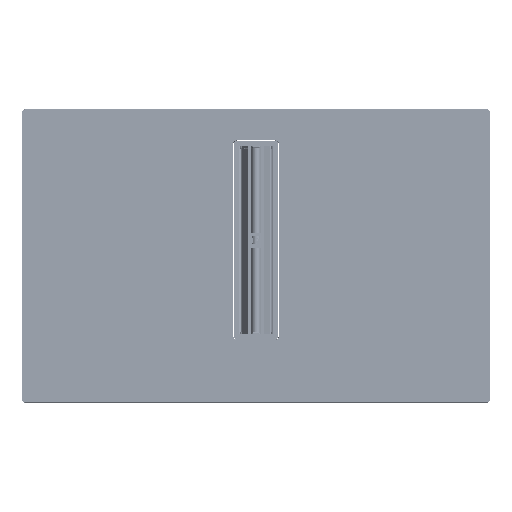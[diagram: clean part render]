
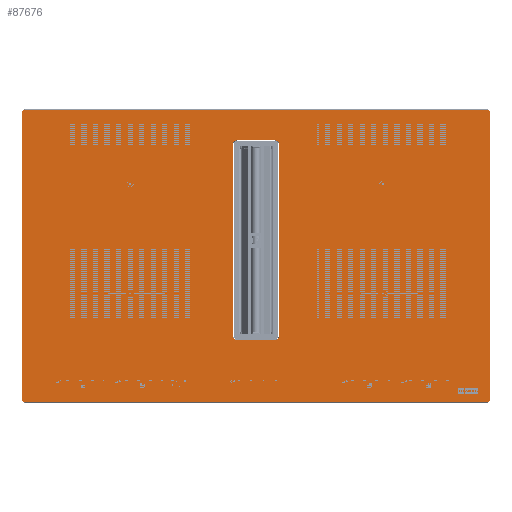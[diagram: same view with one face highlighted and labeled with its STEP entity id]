
A CAD part, top view. The second image highlights one B-rep face of the part: STEP entity #87676.
In plain terms, the highlighted planar face has unit normal (0, 0, 1) as drawn and (0, 1, 0) by its records, which use the part's own axes.
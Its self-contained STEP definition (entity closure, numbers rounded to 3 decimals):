
#921=FACE_BOUND('',#151431,.T.);
#1043=TRIMMED_CURVE($,#2244,(#1094700),(#1094701),.T.,.CARTESIAN.);
#1048=TRIMMED_CURVE($,#2249,(#1094717),(#1094718),.T.,.CARTESIAN.);
#1052=TRIMMED_CURVE($,#2253,(#1094731),(#1094732),.T.,.CARTESIAN.);
#1056=TRIMMED_CURVE($,#2257,(#1094745),(#1094746),.T.,.CARTESIAN.);
#1059=TRIMMED_CURVE($,#2260,(#1095112),(#1095113),.T.,.CARTESIAN.);
#1063=TRIMMED_CURVE($,#2264,(#1095124),(#1095125),.T.,.CARTESIAN.);
#1068=TRIMMED_CURVE($,#2269,(#1095139),(#1095140),.T.,.CARTESIAN.);
#1071=TRIMMED_CURVE($,#2272,(#1095148),(#1095149),.T.,.CARTESIAN.);
#2244=CIRCLE('',#698291,8.628);
#2249=CIRCLE('',#698296,8.628);
#2253=CIRCLE('',#698300,8.628);
#2257=CIRCLE('',#698304,8.628);
#2260=CIRCLE('',#698307,4.372);
#2264=CIRCLE('',#698311,4.372);
#2269=CIRCLE('',#698316,4.372);
#2272=CIRCLE('',#698319,4.372);
#87676=ADVANCED_FACE('',(#119553,#921),#667079,.T.);
#119553=FACE_OUTER_BOUND('',#151430,.T.);
#151430=EDGE_LOOP('',(#265629,#265630,#265631,#265632,#265633,#265634,#265635,
#265636));
#151431=EDGE_LOOP('',(#265637,#265638,#265639,#265640,#265641,#265642,#265643,
#265644));
#265629=ORIENTED_EDGE('',*,*,#395439,.T.);
#265630=ORIENTED_EDGE('',*,*,#395236,.T.);
#265631=ORIENTED_EDGE('',*,*,#395443,.T.);
#265632=ORIENTED_EDGE('',*,*,#395235,.T.);
#265633=ORIENTED_EDGE('',*,*,#395448,.T.);
#265634=ORIENTED_EDGE('',*,*,#395234,.T.);
#265635=ORIENTED_EDGE('',*,*,#395451,.T.);
#265636=ORIENTED_EDGE('',*,*,#395233,.T.);
#265637=ORIENTED_EDGE('',*,*,#395240,.T.);
#265638=ORIENTED_EDGE('',*,*,#395247,.T.);
#265639=ORIENTED_EDGE('',*,*,#395239,.T.);
#265640=ORIENTED_EDGE('',*,*,#395252,.T.);
#265641=ORIENTED_EDGE('',*,*,#395238,.T.);
#265642=ORIENTED_EDGE('',*,*,#395257,.T.);
#265643=ORIENTED_EDGE('',*,*,#395237,.T.);
#265644=ORIENTED_EDGE('',*,*,#395241,.T.);
#395233=EDGE_CURVE('',#633266,#633264,#514849,.T.);
#395234=EDGE_CURVE('',#633268,#633267,#514850,.T.);
#395235=EDGE_CURVE('',#633270,#633269,#514851,.T.);
#395236=EDGE_CURVE('',#633265,#633271,#514852,.T.);
#395237=EDGE_CURVE('',#633274,#633272,#514853,.T.);
#395238=EDGE_CURVE('',#633276,#633275,#514854,.T.);
#395239=EDGE_CURVE('',#633278,#633277,#514855,.T.);
#395240=EDGE_CURVE('',#633273,#633279,#514856,.T.);
#395241=EDGE_CURVE('',#633272,#633273,#1043,.T.);
#395247=EDGE_CURVE('',#633279,#633278,#1048,.T.);
#395252=EDGE_CURVE('',#633277,#633276,#1052,.T.);
#395257=EDGE_CURVE('',#633275,#633274,#1056,.T.);
#395439=EDGE_CURVE('',#633264,#633265,#1059,.T.);
#395443=EDGE_CURVE('',#633271,#633270,#1063,.T.);
#395448=EDGE_CURVE('',#633269,#633268,#1068,.T.);
#395451=EDGE_CURVE('',#633267,#633266,#1071,.T.);
#514849=B_SPLINE_CURVE_WITH_KNOTS('',1,(#1094683,#1094684),
 .UNSPECIFIED.,.F.,.F.,(2,2),(-820.,0.),.UNSPECIFIED.);
#514850=B_SPLINE_CURVE_WITH_KNOTS('',1,(#1094685,#1094686),
 .UNSPECIFIED.,.F.,.F.,(2,2),(-510.,0.),.UNSPECIFIED.);
#514851=B_SPLINE_CURVE_WITH_KNOTS('',1,(#1094687,#1094688),
 .UNSPECIFIED.,.F.,.F.,(2,2),(-820.,0.),.UNSPECIFIED.);
#514852=B_SPLINE_CURVE_WITH_KNOTS('',1,(#1094689,#1094690),
 .UNSPECIFIED.,.F.,.F.,(2,2),(-510.,0.),.UNSPECIFIED.);
#514853=B_SPLINE_CURVE_WITH_KNOTS('',1,(#1094691,#1094692),
 .UNSPECIFIED.,.F.,.F.,(2,2),(-338.,0.),.UNSPECIFIED.);
#514854=B_SPLINE_CURVE_WITH_KNOTS('',1,(#1094693,#1094694),
 .UNSPECIFIED.,.F.,.F.,(2,2),(-65.,0.),.UNSPECIFIED.);
#514855=B_SPLINE_CURVE_WITH_KNOTS('',1,(#1094695,#1094696),
 .UNSPECIFIED.,.F.,.F.,(2,2),(-338.,0.),.UNSPECIFIED.);
#514856=B_SPLINE_CURVE_WITH_KNOTS('',1,(#1094697,#1094698),
 .UNSPECIFIED.,.F.,.F.,(2,2),(-65.,0.),.UNSPECIFIED.);
#633264=VERTEX_POINT('',#1094535);
#633265=VERTEX_POINT('',#1094536);
#633266=VERTEX_POINT('',#1094537);
#633267=VERTEX_POINT('',#1094538);
#633268=VERTEX_POINT('',#1094539);
#633269=VERTEX_POINT('',#1094540);
#633270=VERTEX_POINT('',#1094541);
#633271=VERTEX_POINT('',#1094542);
#633272=VERTEX_POINT('',#1094543);
#633273=VERTEX_POINT('',#1094544);
#633274=VERTEX_POINT('',#1094545);
#633275=VERTEX_POINT('',#1094546);
#633276=VERTEX_POINT('',#1094547);
#633277=VERTEX_POINT('',#1094548);
#633278=VERTEX_POINT('',#1094549);
#633279=VERTEX_POINT('',#1094550);
#667079=PLANE('',#698217);
#698217=AXIS2_PLACEMENT_3D('',#1094073,#730934,$);
#698291=AXIS2_PLACEMENT_3D($,#1094699,#731008,#731009);
#698296=AXIS2_PLACEMENT_3D($,#1094716,#731018,#731019);
#698300=AXIS2_PLACEMENT_3D($,#1094730,#731026,#731027);
#698304=AXIS2_PLACEMENT_3D($,#1094744,#731034,#731035);
#698307=AXIS2_PLACEMENT_3D($,#1095111,#731040,#731041);
#698311=AXIS2_PLACEMENT_3D($,#1095123,#731048,#731049);
#698316=AXIS2_PLACEMENT_3D($,#1095138,#731058,#731059);
#698319=AXIS2_PLACEMENT_3D($,#1095147,#731064,#731065);
#730934=DIRECTION('',(0.,1.,0.));
#731008=DIRECTION('',(0.,-1.,0.));
#731009=DIRECTION('',(-1.,0.,0.));
#731018=DIRECTION('',(0.,-1.,0.));
#731019=DIRECTION('',(0.,0.,-1.));
#731026=DIRECTION('',(0.,-1.,0.));
#731027=DIRECTION('',(1.,0.,0.));
#731034=DIRECTION('',(0.,-1.,0.));
#731035=DIRECTION('',(0.,0.,1.));
#731040=DIRECTION('',(0.,1.,0.));
#731041=DIRECTION('',(0.,0.,-1.));
#731048=DIRECTION('',(0.,1.,0.));
#731049=DIRECTION('',(-1.,0.,0.));
#731058=DIRECTION('',(0.,1.,0.));
#731059=DIRECTION('',(0.,0.,1.));
#731064=DIRECTION('',(0.,1.,0.));
#731065=DIRECTION('',(1.,0.,0.));
#1094073=CARTESIAN_POINT('',(-497.345,0.,311.345));
#1094535=CARTESIAN_POINT('',(-410.,0.,-259.372));
#1094536=CARTESIAN_POINT('',(-414.372,0.,-255.));
#1094537=CARTESIAN_POINT('',(410.,0.,-259.372));
#1094538=CARTESIAN_POINT('',(414.372,0.,-255.));
#1094539=CARTESIAN_POINT('',(414.372,0.,255.));
#1094540=CARTESIAN_POINT('',(410.,0.,259.372));
#1094541=CARTESIAN_POINT('',(-410.,0.,259.372));
#1094542=CARTESIAN_POINT('',(-414.372,0.,255.));
#1094543=CARTESIAN_POINT('',(-41.128,0.,-197.));
#1094544=CARTESIAN_POINT('',(-32.5,0.,-205.628));
#1094545=CARTESIAN_POINT('',(-41.128,0.,141.));
#1094546=CARTESIAN_POINT('',(-32.5,0.,149.628));
#1094547=CARTESIAN_POINT('',(32.5,0.,149.628));
#1094548=CARTESIAN_POINT('',(41.128,0.,141.));
#1094549=CARTESIAN_POINT('',(41.128,0.,-197.));
#1094550=CARTESIAN_POINT('',(32.5,0.,-205.628));
#1094683=CARTESIAN_POINT('',(410.,0.,-259.372));
#1094684=CARTESIAN_POINT('',(-410.,0.,-259.372));
#1094685=CARTESIAN_POINT('',(414.372,0.,255.));
#1094686=CARTESIAN_POINT('',(414.372,0.,-255.));
#1094687=CARTESIAN_POINT('',(-410.,0.,259.372));
#1094688=CARTESIAN_POINT('',(410.,0.,259.372));
#1094689=CARTESIAN_POINT('',(-414.372,0.,-255.));
#1094690=CARTESIAN_POINT('',(-414.372,0.,255.));
#1094691=CARTESIAN_POINT('',(-41.128,0.,141.));
#1094692=CARTESIAN_POINT('',(-41.128,0.,-197.));
#1094693=CARTESIAN_POINT('',(32.5,0.,149.628));
#1094694=CARTESIAN_POINT('',(-32.5,0.,149.628));
#1094695=CARTESIAN_POINT('',(41.128,0.,-197.));
#1094696=CARTESIAN_POINT('',(41.128,0.,141.));
#1094697=CARTESIAN_POINT('',(-32.5,0.,-205.628));
#1094698=CARTESIAN_POINT('',(32.5,0.,-205.628));
#1094699=CARTESIAN_POINT('',(-32.5,0.,-197.));
#1094700=CARTESIAN_POINT('',(-41.128,0.,-197.));
#1094701=CARTESIAN_POINT('',(-32.5,0.,-205.628));
#1094716=CARTESIAN_POINT('',(32.5,0.,-197.));
#1094717=CARTESIAN_POINT('',(32.5,0.,-205.628));
#1094718=CARTESIAN_POINT('',(41.128,0.,-197.));
#1094730=CARTESIAN_POINT('',(32.5,0.,141.));
#1094731=CARTESIAN_POINT('',(41.128,0.,141.));
#1094732=CARTESIAN_POINT('',(32.5,0.,149.628));
#1094744=CARTESIAN_POINT('',(-32.5,0.,141.));
#1094745=CARTESIAN_POINT('',(-32.5,0.,149.628));
#1094746=CARTESIAN_POINT('',(-41.128,0.,141.));
#1095111=CARTESIAN_POINT('',(-410.,0.,-255.));
#1095112=CARTESIAN_POINT('',(-410.,0.,-259.372));
#1095113=CARTESIAN_POINT('',(-414.372,0.,-255.));
#1095123=CARTESIAN_POINT('',(-410.,0.,255.));
#1095124=CARTESIAN_POINT('',(-414.372,0.,255.));
#1095125=CARTESIAN_POINT('',(-410.,0.,259.372));
#1095138=CARTESIAN_POINT('',(410.,0.,255.));
#1095139=CARTESIAN_POINT('',(410.,0.,259.372));
#1095140=CARTESIAN_POINT('',(414.372,0.,255.));
#1095147=CARTESIAN_POINT('',(410.,0.,-255.));
#1095148=CARTESIAN_POINT('',(414.372,0.,-255.));
#1095149=CARTESIAN_POINT('',(410.,0.,-259.372));
